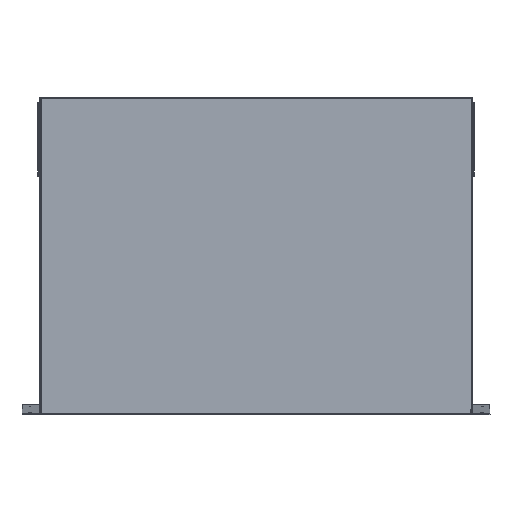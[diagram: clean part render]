
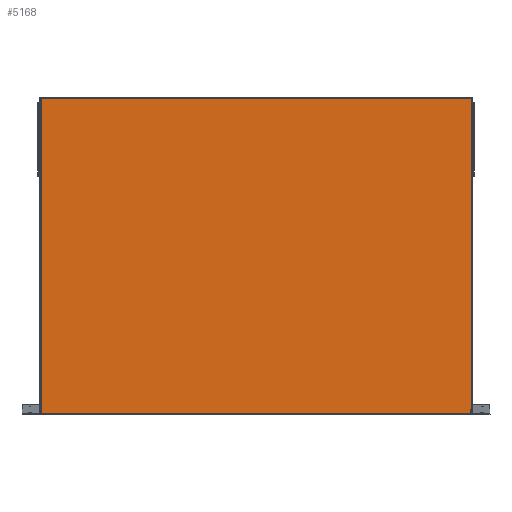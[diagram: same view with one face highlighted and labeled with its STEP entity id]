
A CAD part, front view. The second image highlights one B-rep face of the part: STEP entity #5168.
In plain terms, the highlighted planar face has unit normal (0, -1, 0) as drawn and (0, 0, -1) by its records, which use the part's own axes.
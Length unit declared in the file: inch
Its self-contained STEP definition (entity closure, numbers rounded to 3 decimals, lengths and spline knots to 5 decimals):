
#60 = CARTESIAN_POINT ( 'NONE',  ( 37.66483, 35.27651, -0.038 ) ) ;
#153 = EDGE_CURVE ( 'NONE', #4592, #23798, #6693, .T. ) ;
#242 = VERTEX_POINT ( 'NONE', #15360 ) ;
#365 = EDGE_CURVE ( 'NONE', #5635, #13616, #2078, .T. ) ;
#508 = ORIENTED_EDGE ( 'NONE', *, *, #26988, .T. ) ;
#804 = EDGE_CURVE ( 'NONE', #5635, #19126, #9635, .T. ) ;
#1217 = CARTESIAN_POINT ( 'NONE',  ( 37.66483, 1.55296, -0.038 ) ) ;
#1365 = VERTEX_POINT ( 'NONE', #21476 ) ;
#1607 = EDGE_CURVE ( 'NONE', #6118, #24697, #22643, .T. ) ;
#1694 = EDGE_CURVE ( 'NONE', #26539, #17230, #9480, .T. ) ;
#1719 = CARTESIAN_POINT ( 'NONE',  ( 37.76418, 1.55296, -0.038 ) ) ;
#2078 = LINE ( 'NONE', #3209, #12619 ) ;
#2727 = CARTESIAN_POINT ( 'NONE',  ( 12.87088, 35.37026, -0.038 ) ) ;
#2771 = LINE ( 'NONE', #7745, #19547 ) ;
#3137 = DIRECTION ( 'NONE',  ( -1., 0., 0. ) ) ;
#3183 = ORIENTED_EDGE ( 'NONE', *, *, #21381, .T. ) ;
#3209 = CARTESIAN_POINT ( 'NONE',  ( 37.66418, 35.37651, -0.038 ) ) ;
#3606 = CARTESIAN_POINT ( 'NONE',  ( 0., 0., -0.038 ) ) ;
#3629 = ORIENTED_EDGE ( 'NONE', *, *, #1607, .F. ) ;
#3835 = DIRECTION ( 'NONE',  ( -1., 0., 0. ) ) ;
#4013 = DIRECTION ( 'NONE',  ( 1., 0., 0. ) ) ;
#4488 = CARTESIAN_POINT ( 'NONE',  ( 12.92088, 1.40921, -0.038 ) ) ;
#4592 = VERTEX_POINT ( 'NONE', #5893 ) ;
#4605 = DIRECTION ( 'NONE',  ( 0., -1., 0. ) ) ;
#4743 = DIRECTION ( 'NONE',  ( 1., 0., 0. ) ) ;
#4855 = CARTESIAN_POINT ( 'NONE',  ( 12.84523, 35.42026, -0.038 ) ) ;
#4915 = VERTEX_POINT ( 'NONE', #4855 ) ;
#5168 = ADVANCED_FACE ( 'NONE', ( #21718 ), #5727, .F. ) ;
#5210 = VERTEX_POINT ( 'NONE', #8005 ) ;
#5536 = CARTESIAN_POINT ( 'NONE',  ( 37.76418, 35.27651, -0.038 ) ) ;
#5635 = VERTEX_POINT ( 'NONE', #24857 ) ;
#5727 = PLANE ( 'NONE',  #6452 ) ;
#5831 = CARTESIAN_POINT ( 'NONE',  ( 37.66418, 1.55296, -0.038 ) ) ;
#5893 = CARTESIAN_POINT ( 'NONE',  ( 12.84523, 1.40921, -0.038 ) ) ;
#6118 = VERTEX_POINT ( 'NONE', #1217 ) ;
#6228 = CARTESIAN_POINT ( 'NONE',  ( 12.79588, 35.42026, -0.038 ) ) ;
#6391 = CARTESIAN_POINT ( 'NONE',  ( 12.97088, 1.45921, -0.038 ) ) ;
#6452 = AXIS2_PLACEMENT_3D ( 'NONE', #3606, #20444, #7817 ) ;
#6693 = LINE ( 'NONE', #4488, #17244 ) ;
#7157 = CARTESIAN_POINT ( 'NONE',  ( 12.87088, 35.42026, -0.038 ) ) ;
#7669 = EDGE_LOOP ( 'NONE', ( #3183, #14359, #11890, #18231, #11722, #18573, #23077, #21734, #19771, #508, #26685, #10066, #9090, #12538, #3629, #22139 ) ) ;
#7675 = EDGE_CURVE ( 'NONE', #13616, #24697, #27230, .T. ) ;
#7745 = CARTESIAN_POINT ( 'NONE',  ( 12.97088, 35.47026, -0.038 ) ) ;
#7783 = CARTESIAN_POINT ( 'NONE',  ( 12.97088, 1.45921, -0.038 ) ) ;
#7817 = DIRECTION ( 'NONE',  ( 1., 0., 0. ) ) ;
#8005 = CARTESIAN_POINT ( 'NONE',  ( 12.97088, 35.37026, -0.038 ) ) ;
#8130 = CARTESIAN_POINT ( 'NONE',  ( 12.97088, 35.37026, -0.038 ) ) ;
#8296 = VECTOR ( 'NONE', #14556, 39.37008 ) ;
#8332 = VECTOR ( 'NONE', #25676, 39.37008 ) ;
#8816 = CARTESIAN_POINT ( 'NONE',  ( 37.66418, 1.55296, -0.038 ) ) ;
#8824 = VECTOR ( 'NONE', #12068, 39.37008 ) ;
#9090 = ORIENTED_EDGE ( 'NONE', *, *, #365, .T. ) ;
#9479 = CARTESIAN_POINT ( 'NONE',  ( 0., 1.45856, -0.038 ) ) ;
#9480 = LINE ( 'NONE', #6391, #25605 ) ;
#9635 = LINE ( 'NONE', #18153, #25754 ) ;
#10066 = ORIENTED_EDGE ( 'NONE', *, *, #804, .F. ) ;
#10324 = CARTESIAN_POINT ( 'NONE',  ( 12.87088, 1.45921, -0.038 ) ) ;
#10448 = VECTOR ( 'NONE', #22363, 39.37008 ) ;
#10562 = LINE ( 'NONE', #8130, #26665 ) ;
#11722 = ORIENTED_EDGE ( 'NONE', *, *, #19159, .T. ) ;
#11890 = ORIENTED_EDGE ( 'NONE', *, *, #1694, .T. ) ;
#12068 = DIRECTION ( 'NONE',  ( -1., 0., 0. ) ) ;
#12538 = ORIENTED_EDGE ( 'NONE', *, *, #7675, .T. ) ;
#12619 = VECTOR ( 'NONE', #4605, 39.37008 ) ;
#12805 = LINE ( 'NONE', #6228, #23327 ) ;
#13262 = CARTESIAN_POINT ( 'NONE',  ( 12.84523, 0., -0.038 ) ) ;
#13616 = VERTEX_POINT ( 'NONE', #19153 ) ;
#13901 = LINE ( 'NONE', #10324, #8296 ) ;
#14359 = ORIENTED_EDGE ( 'NONE', *, *, #18910, .T. ) ;
#14556 = DIRECTION ( 'NONE',  ( 0., -1., 0. ) ) ;
#14685 = CARTESIAN_POINT ( 'NONE',  ( 37.66483, 0., -0.038 ) ) ;
#14894 = DIRECTION ( 'NONE',  ( -1., 0., 0. ) ) ;
#15073 = EDGE_CURVE ( 'NONE', #6118, #19322, #27209, .T. ) ;
#15244 = CARTESIAN_POINT ( 'NONE',  ( 12.87088, 35.47026, -0.038 ) ) ;
#15360 = CARTESIAN_POINT ( 'NONE',  ( 37.66418, 1.45856, -0.038 ) ) ;
#15412 = DIRECTION ( 'NONE',  ( 0., 1., 0. ) ) ;
#15780 = LINE ( 'NONE', #22630, #8824 ) ;
#16034 = VECTOR ( 'NONE', #3835, 39.37008 ) ;
#16140 = EDGE_CURVE ( 'NONE', #5210, #19126, #2771, .T. ) ;
#16162 = DIRECTION ( 'NONE',  ( 0., 1., 0. ) ) ;
#16428 = LINE ( 'NONE', #13262, #21329 ) ;
#16773 = LINE ( 'NONE', #5831, #27291 ) ;
#17230 = VERTEX_POINT ( 'NONE', #7783 ) ;
#17244 = VECTOR ( 'NONE', #4743, 39.37008 ) ;
#17630 = VERTEX_POINT ( 'NONE', #2727 ) ;
#18123 = DIRECTION ( 'NONE',  ( 0., 1., 0. ) ) ;
#18153 = CARTESIAN_POINT ( 'NONE',  ( 0., 35.37091, -0.038 ) ) ;
#18231 = ORIENTED_EDGE ( 'NONE', *, *, #21824, .T. ) ;
#18573 = ORIENTED_EDGE ( 'NONE', *, *, #153, .F. ) ;
#18681 = CARTESIAN_POINT ( 'NONE',  ( 12.97088, 35.37091, -0.038 ) ) ;
#18910 = EDGE_CURVE ( 'NONE', #242, #26539, #26744, .T. ) ;
#19126 = VERTEX_POINT ( 'NONE', #18681 ) ;
#19153 = CARTESIAN_POINT ( 'NONE',  ( 37.66418, 35.27651, -0.038 ) ) ;
#19159 = EDGE_CURVE ( 'NONE', #1365, #23798, #13901, .T. ) ;
#19322 = VERTEX_POINT ( 'NONE', #8816 ) ;
#19547 = VECTOR ( 'NONE', #16162, 39.37008 ) ;
#19771 = ORIENTED_EDGE ( 'NONE', *, *, #25700, .T. ) ;
#20444 = DIRECTION ( 'NONE',  ( 0., 0., 1. ) ) ;
#20651 = DIRECTION ( 'NONE',  ( -1., 0., 0. ) ) ;
#21005 = EDGE_CURVE ( 'NONE', #23895, #4915, #12805, .T. ) ;
#21146 = VECTOR ( 'NONE', #3137, 39.37008 ) ;
#21329 = VECTOR ( 'NONE', #15412, 39.37008 ) ;
#21381 = EDGE_CURVE ( 'NONE', #19322, #242, #16773, .T. ) ;
#21476 = CARTESIAN_POINT ( 'NONE',  ( 12.87088, 1.45921, -0.038 ) ) ;
#21594 = CARTESIAN_POINT ( 'NONE',  ( 12.87088, 1.40921, -0.038 ) ) ;
#21718 = FACE_OUTER_BOUND ( 'NONE', #7669, .T. ) ;
#21720 = EDGE_CURVE ( 'NONE', #4592, #4915, #16428, .T. ) ;
#21734 = ORIENTED_EDGE ( 'NONE', *, *, #21005, .F. ) ;
#21824 = EDGE_CURVE ( 'NONE', #17230, #1365, #15780, .T. ) ;
#21900 = DIRECTION ( 'NONE',  ( 0., 1., 0. ) ) ;
#21982 = VECTOR ( 'NONE', #21900, 39.37008 ) ;
#22139 = ORIENTED_EDGE ( 'NONE', *, *, #15073, .T. ) ;
#22363 = DIRECTION ( 'NONE',  ( 1., 0., 0. ) ) ;
#22630 = CARTESIAN_POINT ( 'NONE',  ( 12.97088, 1.45921, -0.038 ) ) ;
#22643 = LINE ( 'NONE', #14685, #21982 ) ;
#23077 = ORIENTED_EDGE ( 'NONE', *, *, #21720, .T. ) ;
#23327 = VECTOR ( 'NONE', #14894, 39.37008 ) ;
#23798 = VERTEX_POINT ( 'NONE', #21594 ) ;
#23895 = VERTEX_POINT ( 'NONE', #7157 ) ;
#24697 = VERTEX_POINT ( 'NONE', #60 ) ;
#24857 = CARTESIAN_POINT ( 'NONE',  ( 37.66418, 35.37091, -0.038 ) ) ;
#25118 = LINE ( 'NONE', #15244, #8332 ) ;
#25605 = VECTOR ( 'NONE', #18123, 39.37008 ) ;
#25676 = DIRECTION ( 'NONE',  ( 0., -1., 0. ) ) ;
#25700 = EDGE_CURVE ( 'NONE', #23895, #17630, #25118, .T. ) ;
#25754 = VECTOR ( 'NONE', #20651, 39.37008 ) ;
#26539 = VERTEX_POINT ( 'NONE', #26554 ) ;
#26554 = CARTESIAN_POINT ( 'NONE',  ( 12.97088, 1.45856, -0.038 ) ) ;
#26665 = VECTOR ( 'NONE', #4013, 39.37008 ) ;
#26685 = ORIENTED_EDGE ( 'NONE', *, *, #16140, .T. ) ;
#26744 = LINE ( 'NONE', #9479, #21146 ) ;
#26794 = DIRECTION ( 'NONE',  ( 0., -1., 0. ) ) ;
#26988 = EDGE_CURVE ( 'NONE', #17630, #5210, #10562, .T. ) ;
#27209 = LINE ( 'NONE', #1719, #16034 ) ;
#27230 = LINE ( 'NONE', #5536, #10448 ) ;
#27291 = VECTOR ( 'NONE', #26794, 39.37008 ) ;
